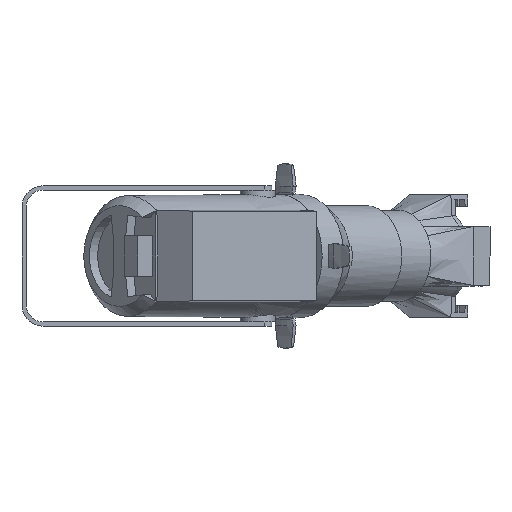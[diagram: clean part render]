
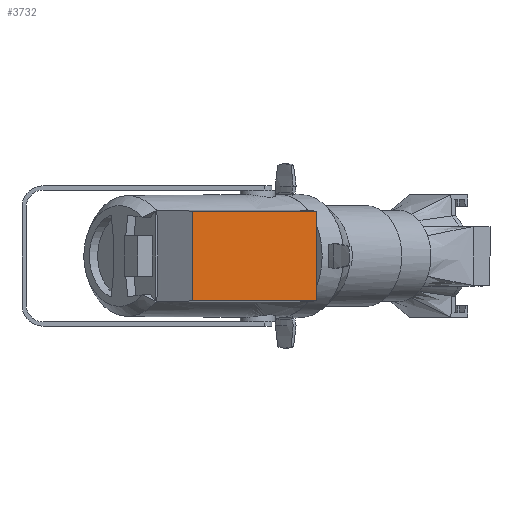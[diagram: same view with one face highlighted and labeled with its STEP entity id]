
A CAD part, front view. The second image highlights one B-rep face of the part: STEP entity #3732.
In plain terms, the highlighted planar face has unit normal (0.695, -0.72, 0) as drawn and (1, -0.018, 0) by its records, which use the part's own axes.
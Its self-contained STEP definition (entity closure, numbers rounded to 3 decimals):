
#172=B_SPLINE_CURVE_WITH_KNOTS('',3,(#14126,#14127,#14128,#14129,#14130,
#14131,#14132,#14133,#14134,#14135,#14136,#14137,#14138,#14139),
 .UNSPECIFIED.,.F.,.F.,(4,2,2,2,2,2,4),(-29.021,-28.885,
-26.698,-22.323,-13.574,-7.741,
-4.509),.UNSPECIFIED.);
#181=B_SPLINE_CURVE_WITH_KNOTS('',3,(#17413,#17414,#17415,#17416,#17417,
#17418,#17419,#17420,#17421,#17422,#17423,#17424,#17425,#17426),
 .UNSPECIFIED.,.F.,.F.,(4,2,2,2,2,2,4),(-29.021,-28.885,
-26.698,-22.323,-13.574,-7.741,
-4.509),.UNSPECIFIED.);
#183=B_SPLINE_CURVE_WITH_KNOTS('',3,(#25789,#25790,#25791,#25792,#25793,
#25794,#25795,#25796,#25797,#25798,#25799,#25800,#25801,#25802,#25803,#25804),
 .UNSPECIFIED.,.F.,.F.,(4,2,2,2,2,2,2,4),(0.,0.769,
4.613,12.305,17.432,28.26,33.675,
34.758),.UNSPECIFIED.);
#184=B_SPLINE_CURVE_WITH_KNOTS('',3,(#26894,#26895,#26896,#26897,#26898,
#26899),.UNSPECIFIED.,.F.,.F.,(4,2,4),(0.,3.44,
12.76),.UNSPECIFIED.);
#373=PLANE('',#4104);
#573=FACE_OUTER_BOUND('',#810,.T.);
#810=EDGE_LOOP('',(#3484,#3485,#3486,#3487));
#1849=VERTEX_POINT('',#14104);
#1850=VERTEX_POINT('',#14125);
#1862=VERTEX_POINT('',#17372);
#1864=VERTEX_POINT('',#17406);
#2376=EDGE_CURVE('',#1849,#1850,#172,.T.);
#2401=EDGE_CURVE('',#1862,#1864,#181,.T.);
#2404=EDGE_CURVE('',#1862,#1849,#183,.F.);
#2405=EDGE_CURVE('',#1864,#1850,#184,.F.);
#3484=ORIENTED_EDGE('',*,*,#2404,.F.);
#3485=ORIENTED_EDGE('',*,*,#2401,.T.);
#3486=ORIENTED_EDGE('',*,*,#2405,.T.);
#3487=ORIENTED_EDGE('',*,*,#2376,.F.);
#3732=ADVANCED_FACE('',(#573),#373,.T.);
#4104=AXIS2_PLACEMENT_3D('',#28673,#5076,#5077);
#5076=DIRECTION('center_axis',(1.,-0.018,0.));
#5077=DIRECTION('ref_axis',(0.,0.,-1.));
#14104=CARTESIAN_POINT('',(116.538,-199.006,63.872));
#14125=CARTESIAN_POINT('',(120.871,46.083,63.802));
#14126=CARTESIAN_POINT('Ctrl Pts',(116.538,-199.006,63.872));
#14127=CARTESIAN_POINT('Ctrl Pts',(116.546,-198.552,63.872));
#14128=CARTESIAN_POINT('Ctrl Pts',(116.554,-198.099,63.871));
#14129=CARTESIAN_POINT('Ctrl Pts',(116.691,-190.355,63.869));
#14130=CARTESIAN_POINT('Ctrl Pts',(116.82,-183.065,63.867));
#14131=CARTESIAN_POINT('Ctrl Pts',(117.207,-161.195,63.861));
#14132=CARTESIAN_POINT('Ctrl Pts',(117.464,-146.615,63.857));
#14133=CARTESIAN_POINT('Ctrl Pts',(118.238,-102.876,63.844));
#14134=CARTESIAN_POINT('Ctrl Pts',(118.753,-73.716,63.836));
#14135=CARTESIAN_POINT('Ctrl Pts',(119.612,-25.116,63.822));
#14136=CARTESIAN_POINT('Ctrl Pts',(119.956,-5.676,63.817));
#14137=CARTESIAN_POINT('Ctrl Pts',(120.49,24.536,63.808));
#14138=CARTESIAN_POINT('Ctrl Pts',(120.681,35.31,63.805));
#14139=CARTESIAN_POINT('Ctrl Pts',(120.871,46.083,63.802));
#17372=CARTESIAN_POINT('',(116.538,-199.006,-63.872));
#17406=CARTESIAN_POINT('',(120.871,46.083,-63.802));
#17413=CARTESIAN_POINT('Ctrl Pts',(116.538,-199.006,-63.872));
#17414=CARTESIAN_POINT('Ctrl Pts',(116.546,-198.552,-63.872));
#17415=CARTESIAN_POINT('Ctrl Pts',(116.554,-198.099,-63.871));
#17416=CARTESIAN_POINT('Ctrl Pts',(116.691,-190.355,-63.869));
#17417=CARTESIAN_POINT('Ctrl Pts',(116.82,-183.065,-63.867));
#17418=CARTESIAN_POINT('Ctrl Pts',(117.207,-161.195,-63.861));
#17419=CARTESIAN_POINT('Ctrl Pts',(117.464,-146.615,-63.857));
#17420=CARTESIAN_POINT('Ctrl Pts',(118.238,-102.876,-63.844));
#17421=CARTESIAN_POINT('Ctrl Pts',(118.753,-73.716,-63.836));
#17422=CARTESIAN_POINT('Ctrl Pts',(119.612,-25.116,-63.822));
#17423=CARTESIAN_POINT('Ctrl Pts',(119.956,-5.676,-63.817));
#17424=CARTESIAN_POINT('Ctrl Pts',(120.49,24.536,-63.808));
#17425=CARTESIAN_POINT('Ctrl Pts',(120.681,35.31,-63.805));
#17426=CARTESIAN_POINT('Ctrl Pts',(120.871,46.083,-63.802));
#25789=CARTESIAN_POINT('Ctrl Pts',(116.538,-199.006,63.872));
#25790=CARTESIAN_POINT('Ctrl Pts',(116.538,-199.005,61.308));
#25791=CARTESIAN_POINT('Ctrl Pts',(116.538,-199.006,52.999));
#25792=CARTESIAN_POINT('Ctrl Pts',(116.538,-199.005,48.34));
#25793=CARTESIAN_POINT('Ctrl Pts',(116.538,-199.006,44.458));
#25794=CARTESIAN_POINT('Ctrl Pts',(116.538,-199.006,32.809));
#25795=CARTESIAN_POINT('Ctrl Pts',(116.538,-199.006,25.042));
#25796=CARTESIAN_POINT('Ctrl Pts',(116.538,-199.006,12.098));
#25797=CARTESIAN_POINT('Ctrl Pts',(116.538,-199.006,6.92));
#25798=CARTESIAN_POINT('Ctrl Pts',(116.538,-199.006,-9.192));
#25799=CARTESIAN_POINT('Ctrl Pts',(116.538,-199.006,-20.126));
#25800=CARTESIAN_POINT('Ctrl Pts',(116.538,-199.006,-36.53));
#25801=CARTESIAN_POINT('Ctrl Pts',(116.538,-199.006,-41.999));
#25802=CARTESIAN_POINT('Ctrl Pts',(116.538,-199.006,-48.562));
#25803=CARTESIAN_POINT('Ctrl Pts',(116.538,-199.005,-60.887));
#25804=CARTESIAN_POINT('Ctrl Pts',(116.538,-199.006,-63.872));
#26894=CARTESIAN_POINT('Ctrl Pts',(120.871,46.083,63.802));
#26895=CARTESIAN_POINT('Ctrl Pts',(120.871,46.082,52.335));
#26896=CARTESIAN_POINT('Ctrl Pts',(120.871,46.083,40.868));
#26897=CARTESIAN_POINT('Ctrl Pts',(120.871,46.083,-1.667));
#26898=CARTESIAN_POINT('Ctrl Pts',(120.871,46.083,-32.734));
#26899=CARTESIAN_POINT('Ctrl Pts',(120.871,46.083,-63.802));
#28673=CARTESIAN_POINT('Origin',(118.704,-76.484,0.));
